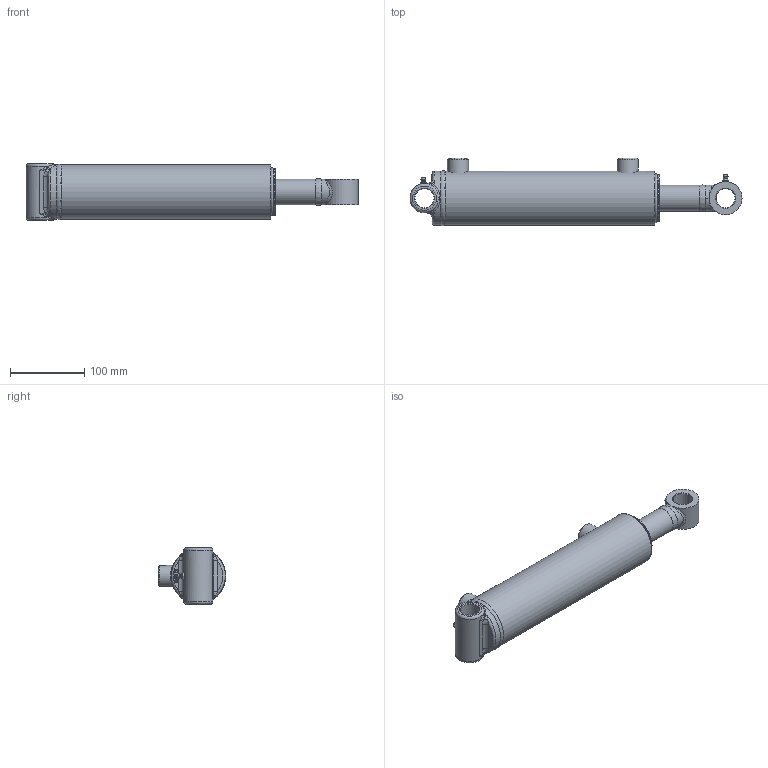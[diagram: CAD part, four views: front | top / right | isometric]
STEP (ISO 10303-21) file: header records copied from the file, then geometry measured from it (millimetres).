
FILE_DESCRIPTION(/* description */ ('Ø2.50 X 8.00 DA'),/* implementation_level */ '2;1');
FILE_NAME(/* name */ 'T:\Aces\Jobs\7ba8fd06c7594e5f94197943e8b1fb17\result.stp',/* time_stamp */ '2022-10-06T14:48:38+00:00',/* author */ (''),/* organization */ ('PRINCE MANUFACTURING'),/* preprocessor_version */ 'ST-DEVELOPER v18.1',/* originating_system */ 'Autodesk Inventor 2022',/* authorisation */ '');
FILE_SCHEMA (('AUTOMOTIVE_DESIGN { 1 0 10303 214 3 1 1 }'));
Length unit declared in the file: inch
Products named in the file (21): PC2508013A00-160XYXA; 0613-XYSF000-11237; 0513-T-11237; 161300230; 200015602; 06Weld1_C360; 0713-P-075; 220000208; 0813-G-138; 230025103; 230025003; 240000018; 240061330; 240000330; 0207A-FAW0-14250XA; 0107A-FAW0-14250; 210400812; 02Weld_C360; 240037106; 250014137; 270010020
Assembly tree (22 placements, depth 3):
  PC2508013A00-160XYXA
    0613-XYSF000-11237
      0513-T-11237
      161300230
      200015602  x2
      06Weld1_C360
    0713-P-075
    220000208
    0813-G-138
    230025103
    230025003
    240000018
    240061330
    240000330
    0207A-FAW0-14250XA
      0107A-FAW0-14250
      210400812
      02Weld_C360
    240037106
    250014137
    270010020  x2
Bounding box: 448.11 x 91.34 x 76.2 mm (x, y, z)
Volume: 924206.4 mm3; surface area: 280751.7 mm2
Topology: 25 solids, 25 shells, 554 faces, 1338 edges, 857 vertices
Faces by surface type: bspline 155, plane 140, torus 86, cone 86, cylinder 83, sphere 4
Full cylindrical faces by diameter (mm): 2.143 x4, 3.175 x1, 5.359 x2, 6.35 x2, 9.525 x2, 12.649 x1, 12.7 x1, 12.725 x1, 17.323 x3, 18.999 x1, 19.126 x1, 21.615 x1, 25.781 x2, 28.575 x2, 34.925 x1, 35.001 x2, 35.56 x2, 36.957 x1, 40.64 x1, 41.3 x1, 44.45 x1, 46.101 x2, 47.625 x2, 50.8 x2, 54.077 x2, 54.813 x2, 59.931 x2, 60.071 x1, 60.096 x4, 62.886 x2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
Entity records: 32488 total; most frequent: CARTESIAN_POINT 20016, ORIENTED_EDGE 2458, DIRECTION 2131, EDGE_CURVE 1229, AXIS2_PLACEMENT_3D 894, VERTEX_POINT 796, EDGE_LOOP 589, FACE_OUTER_BOUND 510
